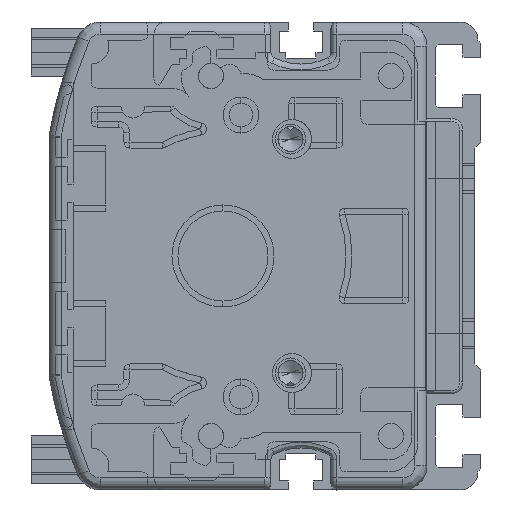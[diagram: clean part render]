
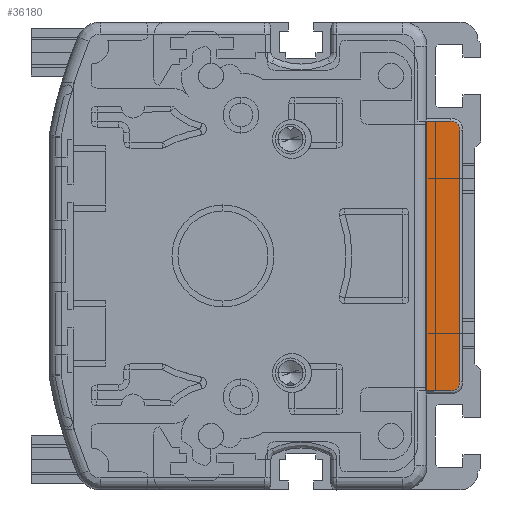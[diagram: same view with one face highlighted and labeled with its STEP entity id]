
A CAD part, left-side view. The second image highlights one B-rep face of the part: STEP entity #36180.
In plain terms, the highlighted planar face has unit normal (-1, 0, 0).
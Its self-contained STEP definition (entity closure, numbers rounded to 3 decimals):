
#30735=DIRECTION('',(0.,0.,-1.));
#30736=VECTOR('',#30735,45.);
#30737=CARTESIAN_POINT('',(-2.,9.268,22.5));
#30738=LINE('',#30737,#30736);
#30770=CARTESIAN_POINT('',(-2.,5.,21.));
#30771=DIRECTION('',(1.,0.,0.));
#30772=DIRECTION('',(0.,0.,1.));
#30773=AXIS2_PLACEMENT_3D('',#30770,#30771,#30772);
#30775=CARTESIAN_POINT('',(-2.,5.,-21.));
#30776=DIRECTION('',(1.,0.,0.));
#30777=DIRECTION('',(0.,-1.,0.));
#30778=AXIS2_PLACEMENT_3D('',#30775,#30776,#30777);
#30784=DIRECTION('',(0.,-1.,0.));
#30785=VECTOR('',#30784,4.268);
#30786=CARTESIAN_POINT('',(-2.,9.268,-22.5));
#30787=LINE('',#30786,#30785);
#31318=DIRECTION('',(0.,0.,1.));
#31319=VECTOR('',#31318,42.);
#31320=CARTESIAN_POINT('',(-2.,3.5,-21.));
#31321=LINE('',#31320,#31319);
#31341=DIRECTION('',(0.,1.,0.));
#31342=VECTOR('',#31341,4.268);
#31343=CARTESIAN_POINT('',(-2.,5.,22.5));
#31344=LINE('',#31343,#31342);
#34627=CARTESIAN_POINT('',(-2.,9.268,22.5));
#34628=CARTESIAN_POINT('',(-2.,9.268,-22.5));
#34629=VERTEX_POINT('',#34627);
#34630=VERTEX_POINT('',#34628);
#34640=CARTESIAN_POINT('',(-2.,5.,-22.5));
#34641=VERTEX_POINT('',#34640);
#34642=CARTESIAN_POINT('',(-2.,3.5,-21.));
#34643=VERTEX_POINT('',#34642);
#34644=CARTESIAN_POINT('',(-2.,3.5,21.));
#34645=VERTEX_POINT('',#34644);
#34646=CARTESIAN_POINT('',(-2.,5.,22.5));
#34647=VERTEX_POINT('',#34646);
#36162=CARTESIAN_POINT('',(-2.,6.384,0.));
#36163=DIRECTION('',(1.,0.,0.));
#36164=DIRECTION('',(0.,0.,-1.));
#36165=AXIS2_PLACEMENT_3D('',#36162,#36163,#36164);
#36166=PLANE('',#36165);
#36168=ORIENTED_EDGE('',*,*,#36167,.F.);
#36169=ORIENTED_EDGE('',*,*,#36141,.F.);
#36171=ORIENTED_EDGE('',*,*,#36170,.F.);
#36173=ORIENTED_EDGE('',*,*,#36172,.T.);
#36175=ORIENTED_EDGE('',*,*,#36174,.F.);
#36177=ORIENTED_EDGE('',*,*,#36176,.T.);
#36178=EDGE_LOOP('',(#36168,#36169,#36171,#36173,#36175,#36177));
#36179=FACE_OUTER_BOUND('',#36178,.F.);
#36180=ADVANCED_FACE('',(#36179),#36166,.F.);
#30774=CIRCLE('',#30773,1.5);
#30779=CIRCLE('',#30778,1.5);
#36141=EDGE_CURVE('',#34629,#34630,#30738,.T.);
#36167=EDGE_CURVE('',#34630,#34641,#30787,.T.);
#36170=EDGE_CURVE('',#34647,#34629,#31344,.T.);
#36172=EDGE_CURVE('',#34647,#34645,#30774,.T.);
#36174=EDGE_CURVE('',#34643,#34645,#31321,.T.);
#36176=EDGE_CURVE('',#34643,#34641,#30779,.T.);
